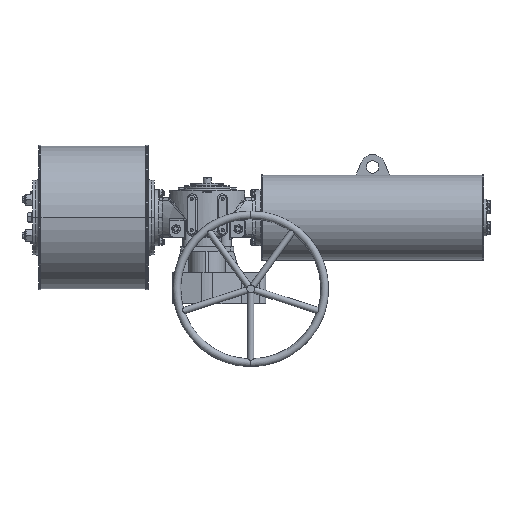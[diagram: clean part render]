
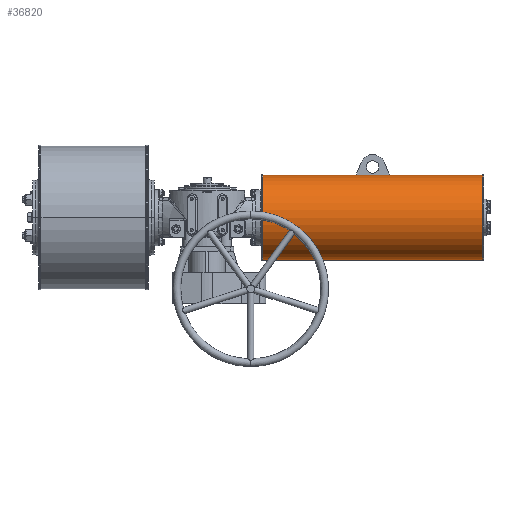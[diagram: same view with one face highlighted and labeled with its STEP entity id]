
A CAD part, front view. The second image highlights one B-rep face of the part: STEP entity #36820.
In plain terms, the highlighted cylindrical face has radius 136.5 mm (diameter 273 mm), a partial arc.
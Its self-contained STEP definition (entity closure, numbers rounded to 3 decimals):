
#2518 = DIRECTION ( 'NONE',  ( 1., 0., 0. ) ) ;
#2788 = VERTEX_POINT ( 'NONE', #3984 ) ;
#3321 = CARTESIAN_POINT ( 'NONE',  ( 183.477, 35.296, -134.5 ) ) ;
#3363 = DIRECTION ( 'NONE',  ( 1., 0., 0. ) ) ;
#3650 = VECTOR ( 'NONE', #16221, 1000. ) ;
#3984 = CARTESIAN_POINT ( 'NONE',  ( 479.477, 35.296, 138.5 ) ) ;
#5006 = EDGE_CURVE ( 'NONE', #63963, #17920, #75797, .T. ) ;
#8516 = DIRECTION ( 'NONE',  ( 1., 0., 0. ) ) ;
#9249 = AXIS2_PLACEMENT_3D ( 'NONE', #28979, #46304, #52750 ) ;
#9793 = CYLINDRICAL_SURFACE ( 'NONE', #62788, 136.5 ) ;
#9833 = CARTESIAN_POINT ( 'NONE',  ( 179.977, -101.204, 2. ) ) ;
#10490 = DIRECTION ( 'NONE',  ( 1., 0., 0. ) ) ;
#12850 = ORIENTED_EDGE ( 'NONE', *, *, #70112, .T. ) ;
#13353 = CIRCLE ( 'NONE', #35191, 136.5 ) ;
#13986 = DIRECTION ( 'NONE',  ( 1., 0., 0. ) ) ;
#14242 = CARTESIAN_POINT ( 'NONE',  ( 479.477, 35.296, 2. ) ) ;
#16221 = DIRECTION ( 'NONE',  ( 1., 0., 0. ) ) ;
#16259 = ORIENTED_EDGE ( 'NONE', *, *, #24493, .T. ) ;
#17005 = AXIS2_PLACEMENT_3D ( 'NONE', #65651, #10490, #35045 ) ;
#17429 = LINE ( 'NONE', #78230, #3650 ) ;
#17920 = VERTEX_POINT ( 'NONE', #72171 ) ;
#20982 = DIRECTION ( 'NONE',  ( 0., 0., 1. ) ) ;
#22337 = EDGE_CURVE ( 'NONE', #50141, #2788, #13353, .T. ) ;
#22472 = CARTESIAN_POINT ( 'NONE',  ( 587.477, 35.296, 138.5 ) ) ;
#24493 = EDGE_CURVE ( 'NONE', #44397, #50141, #79211, .T. ) ;
#24945 = CARTESIAN_POINT ( 'NONE',  ( 179.977, 35.296, 138.5 ) ) ;
#27548 = EDGE_LOOP ( 'NONE', ( #28223, #63344, #66455, #12850, #79668, #31574, #16259, #57837, #63246 ) ) ;
#27740 = VECTOR ( 'NONE', #39757, 1000. ) ;
#27894 = DIRECTION ( 'NONE',  ( 0., 0., 1. ) ) ;
#28223 = ORIENTED_EDGE ( 'NONE', *, *, #32114, .T. ) ;
#28979 = CARTESIAN_POINT ( 'NONE',  ( 886.977, 35.296, 2. ) ) ;
#29491 = VECTOR ( 'NONE', #67544, 1000. ) ;
#30354 = EDGE_CURVE ( 'NONE', #62378, #48240, #77559, .T. ) ;
#31574 = ORIENTED_EDGE ( 'NONE', *, *, #71657, .T. ) ;
#32114 = EDGE_CURVE ( 'NONE', #36038, #74498, #70440, .T. ) ;
#32352 = DIRECTION ( 'NONE',  ( -1., 0., 0. ) ) ;
#35045 = DIRECTION ( 'NONE',  ( 0., -1., 0. ) ) ;
#35191 = AXIS2_PLACEMENT_3D ( 'NONE', #14242, #32352, #62554 ) ;
#35741 = EDGE_CURVE ( 'NONE', #74498, #63963, #59826, .T. ) ;
#36038 = VERTEX_POINT ( 'NONE', #24945 ) ;
#36814 = EDGE_CURVE ( 'NONE', #36038, #2788, #17429, .T. ) ;
#36820 = ADVANCED_FACE ( 'NONE', ( #58500 ), #9793, .T. ) ;
#37066 = CARTESIAN_POINT ( 'NONE',  ( 886.977, 35.296, 138.5 ) ) ;
#38966 = CARTESIAN_POINT ( 'NONE',  ( 183.477, 35.296, 138.5 ) ) ;
#39757 = DIRECTION ( 'NONE',  ( 1., 0., 0. ) ) ;
#40110 = CIRCLE ( 'NONE', #17005, 136.5 ) ;
#40522 = AXIS2_PLACEMENT_3D ( 'NONE', #43939, #8516, #20982 ) ;
#41199 = CARTESIAN_POINT ( 'NONE',  ( 183.477, 35.296, 2. ) ) ;
#41376 = CIRCLE ( 'NONE', #9249, 136.5 ) ;
#41679 = CARTESIAN_POINT ( 'NONE',  ( 179.977, 35.296, -134.5 ) ) ;
#42982 = CARTESIAN_POINT ( 'NONE',  ( 183.477, 30.296, 138.408 ) ) ;
#43939 = CARTESIAN_POINT ( 'NONE',  ( 179.977, 35.296, 2. ) ) ;
#44397 = VERTEX_POINT ( 'NONE', #61094 ) ;
#46304 = DIRECTION ( 'NONE',  ( -1., 0., 0. ) ) ;
#48240 = VERTEX_POINT ( 'NONE', #37066 ) ;
#49835 = DIRECTION ( 'NONE',  ( 0., 0., 1. ) ) ;
#50141 = VERTEX_POINT ( 'NONE', #68589 ) ;
#52750 = DIRECTION ( 'NONE',  ( 0., 0., 1. ) ) ;
#55874 = CARTESIAN_POINT ( 'NONE',  ( 179.977, 35.296, 2. ) ) ;
#56362 = VECTOR ( 'NONE', #2518, 1000. ) ;
#57837 = ORIENTED_EDGE ( 'NONE', *, *, #22337, .T. ) ;
#58500 = FACE_OUTER_BOUND ( 'NONE', #27548, .T. ) ;
#59826 = CIRCLE ( 'NONE', #40522, 136.5 ) ;
#61094 = CARTESIAN_POINT ( 'NONE',  ( 587.477, 30.296, 138.408 ) ) ;
#62378 = VERTEX_POINT ( 'NONE', #22472 ) ;
#62554 = DIRECTION ( 'NONE',  ( 0., 1., 0. ) ) ;
#62788 = AXIS2_PLACEMENT_3D ( 'NONE', #41199, #3363, #27894 ) ;
#63246 = ORIENTED_EDGE ( 'NONE', *, *, #36814, .F. ) ;
#63344 = ORIENTED_EDGE ( 'NONE', *, *, #35741, .T. ) ;
#63963 = VERTEX_POINT ( 'NONE', #41679 ) ;
#65651 = CARTESIAN_POINT ( 'NONE',  ( 587.477, 35.296, 2. ) ) ;
#66455 = ORIENTED_EDGE ( 'NONE', *, *, #5006, .T. ) ;
#67544 = DIRECTION ( 'NONE',  ( -1., 0., 0. ) ) ;
#68589 = CARTESIAN_POINT ( 'NONE',  ( 479.477, 30.296, 138.408 ) ) ;
#70112 = EDGE_CURVE ( 'NONE', #17920, #48240, #41376, .T. ) ;
#70440 = CIRCLE ( 'NONE', #71705, 136.5 ) ;
#71657 = EDGE_CURVE ( 'NONE', #62378, #44397, #40110, .T. ) ;
#71705 = AXIS2_PLACEMENT_3D ( 'NONE', #55874, #13986, #49835 ) ;
#72171 = CARTESIAN_POINT ( 'NONE',  ( 886.977, 35.296, -134.5 ) ) ;
#74498 = VERTEX_POINT ( 'NONE', #9833 ) ;
#75797 = LINE ( 'NONE', #3321, #56362 ) ;
#77559 = LINE ( 'NONE', #38966, #27740 ) ;
#78230 = CARTESIAN_POINT ( 'NONE',  ( 183.477, 35.296, 138.5 ) ) ;
#79211 = LINE ( 'NONE', #42982, #29491 ) ;
#79668 = ORIENTED_EDGE ( 'NONE', *, *, #30354, .F. ) ;
